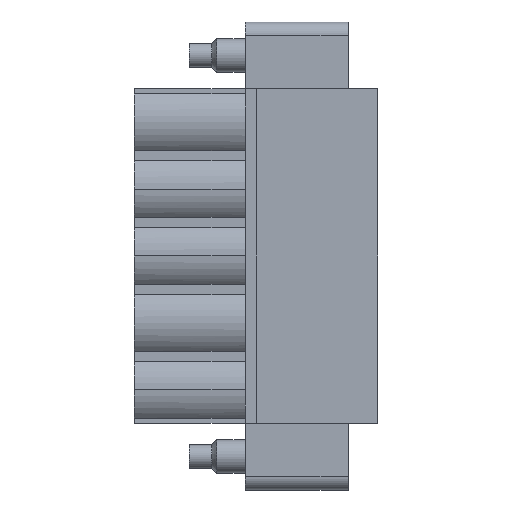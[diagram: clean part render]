
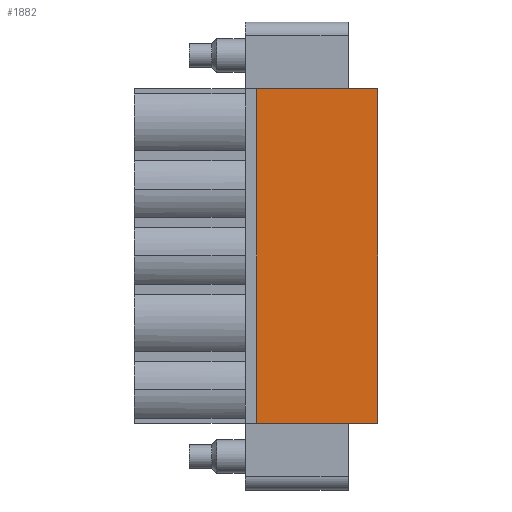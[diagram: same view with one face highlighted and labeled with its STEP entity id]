
A CAD part, front view. The second image highlights one B-rep face of the part: STEP entity #1882.
In plain terms, the highlighted planar face has unit normal (0, -1, 0).
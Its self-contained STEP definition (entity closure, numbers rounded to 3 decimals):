
#132 = EDGE_CURVE ( 'NONE', #8418, #2440, #6137, .T. ) ;
#1153 = DIRECTION ( 'NONE',  ( -1., 0., 0. ) ) ;
#1323 = VECTOR ( 'NONE', #2635, 1000. ) ;
#1434 = ORIENTED_EDGE ( 'NONE', *, *, #9607, .F. ) ;
#1645 = VECTOR ( 'NONE', #4398, 1000. ) ;
#1671 = CARTESIAN_POINT ( 'NONE',  ( 0.87, -1.73, 0.379 ) ) ;
#1882 = ADVANCED_FACE ( 'NONE', ( #5986 ), #6963, .T. ) ;
#2003 = CARTESIAN_POINT ( 'NONE',  ( 9.9, -1.73, 0.379 ) ) ;
#2167 = VERTEX_POINT ( 'NONE', #3583 ) ;
#2440 = VERTEX_POINT ( 'NONE', #3214 ) ;
#2635 = DIRECTION ( 'NONE',  ( -1., 0., 0. ) ) ;
#2877 = EDGE_LOOP ( 'NONE', ( #1434, #10037, #3438, #4744 ) ) ;
#2920 = LINE ( 'NONE', #6797, #1645 ) ;
#3214 = CARTESIAN_POINT ( 'NONE',  ( 9.9, -1.73, 0.379 ) ) ;
#3438 = ORIENTED_EDGE ( 'NONE', *, *, #7955, .F. ) ;
#3583 = CARTESIAN_POINT ( 'NONE',  ( 0.87, -1.73, -24.621 ) ) ;
#4172 = CARTESIAN_POINT ( 'NONE',  ( 0., -1.73, -24.621 ) ) ;
#4176 = DIRECTION ( 'NONE',  ( 1., 0., 0. ) ) ;
#4398 = DIRECTION ( 'NONE',  ( 0., 0., 1. ) ) ;
#4427 = DIRECTION ( 'NONE',  ( 0., -1., 0. ) ) ;
#4708 = EDGE_CURVE ( 'NONE', #10227, #2167, #9911, .T. ) ;
#4744 = ORIENTED_EDGE ( 'NONE', *, *, #132, .F. ) ;
#5925 = DIRECTION ( 'NONE',  ( 0., 0., -1. ) ) ;
#5986 = FACE_OUTER_BOUND ( 'NONE', #2877, .T. ) ;
#6137 = LINE ( 'NONE', #9032, #7902 ) ;
#6797 = CARTESIAN_POINT ( 'NONE',  ( 0.87, -1.73, 0.379 ) ) ;
#6955 = LINE ( 'NONE', #8306, #7567 ) ;
#6963 = PLANE ( 'NONE',  #10247 ) ;
#7567 = VECTOR ( 'NONE', #5925, 1000. ) ;
#7902 = VECTOR ( 'NONE', #4176, 1000. ) ;
#7955 = EDGE_CURVE ( 'NONE', #2440, #10227, #6955, .T. ) ;
#8306 = CARTESIAN_POINT ( 'NONE',  ( 9.9, -1.73, -12.121 ) ) ;
#8418 = VERTEX_POINT ( 'NONE', #1671 ) ;
#9032 = CARTESIAN_POINT ( 'NONE',  ( 4.95, -1.73, 0.379 ) ) ;
#9364 = CARTESIAN_POINT ( 'NONE',  ( 9.9, -1.73, -24.621 ) ) ;
#9607 = EDGE_CURVE ( 'NONE', #2167, #8418, #2920, .T. ) ;
#9911 = LINE ( 'NONE', #4172, #1323 ) ;
#10037 = ORIENTED_EDGE ( 'NONE', *, *, #4708, .F. ) ;
#10227 = VERTEX_POINT ( 'NONE', #9364 ) ;
#10247 = AXIS2_PLACEMENT_3D ( 'NONE', #2003, #4427, #1153 ) ;
